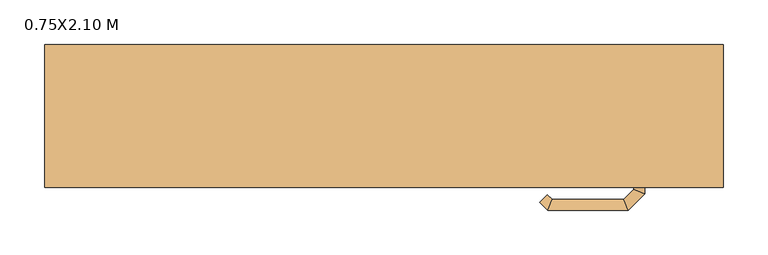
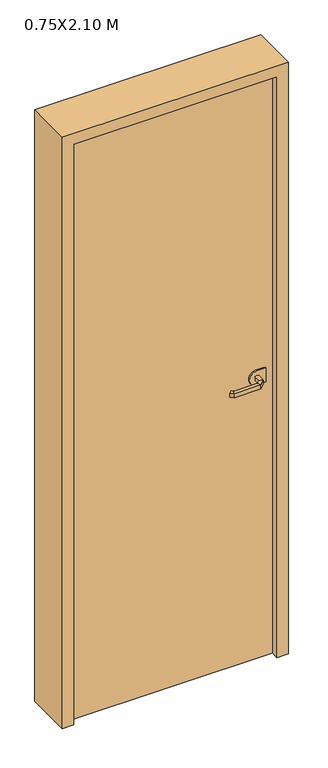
"""IFC4 building model written with IfcOpenShell, lengths in millimetres: door geometry, PUERTA DE  MADERA-CEDRO : 0.75X2.10 M."""

from ifc_helpers import new_model, si_unit, point, frame, frame_2d, origin, origin_with_axes, place, context, project, spatial, polyline, circle_curve, ellipse_curve, trimmed, segment, composite_curve, outline, extrude, faceted_brep, source, transform, mapped, element, save
from ifc_brep_helpers import plane_surface, cylinder_surface, advanced_brep


def door_0_75x2_10_m_664283bd(model_context):
    return source(origin(), model_context, "Body", "SolidModel", [
        extrude(outline(composite_curve([segment(polyline([(975.0, 315.9), (1025.0, 315.9), (1025.0, 285.9)]), True, "CONTINUOUS"), segment(trimmed(circle_curve(frame_2d((1000.0, 285.9)), 25.0), [point((1025.0, 285.9))], [point((975.0, 285.9))], False, "CARTESIAN"), True, "CONTINUOUS"), segment(polyline([(975.0, 285.9), (975.0, 315.9)]), True, "CONTINUOUS")], self_intersect=False)), frame((0.0, -16.5, 0.0), z_axis=(0.0, 1.0, 0.0), x_axis=(0.0, 0.0, 1.0)), (0.0, 0.0, 1.0), 5.0),
        advanced_brep(
        [(279.9, -11.5, 993.0), (291.9, -11.5, 993.0), (291.9, -11.5, 1007.0), (279.9, -11.5, 1007.0), (279.9, 10.9852045, 1007.0), (279.9, 10.9852045, 993.0), (291.9, 15.9557673, 1007.0), (291.9, 15.9557673, 993.0), (268.4147186, 22.4704859, 1007.0), (268.4147186, 22.4704859, 993.0), (273.3852814, 34.4704859, 1007.0), (273.3852814, 34.4704859, 993.0), (188.3394977, 22.4704859, 1007.0), (188.3394977, 22.4704859, 993.0), (183.368935, 34.4704859, 1007.0), (183.368935, 34.4704859, 993.0), (183.0257892, 17.1567774, 993.0), (183.0257892, 17.1567774, 1007.0), (174.5405078, 25.6420588, 1007.0), (174.5405078, 25.6420588, 993.0)],
        [
            (0, 1, circle_curve(frame((285.9, -11.5, 1013.0457722), z_axis=(0.0, -1.0, 0.0), x_axis=(1.0, 0.0, 0.0)), 20.9244589)),
            (1, 2),
            (2, 3, circle_curve(frame((285.9, -11.5, 986.9542278), z_axis=(0.0, -1.0, 0.0), x_axis=(1.0, 0.0, 0.0)), 20.9244589)),
            (3, 0),
            (3, 4),
            (4, 5),
            (5, 0),
            (2, 6),
            (6, 4, ellipse_curve(frame((285.9, 13.4704859, 986.9542278), z_axis=(0.38268343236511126, -0.9238795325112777, 0.0), x_axis=(-0.9238795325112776, -0.3826834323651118, 0.0)), 22.6484711, 20.9244589)),
            (1, 7),
            (7, 6),
            (5, 7, ellipse_curve(frame((285.9, 13.4704859, 1013.0457722), z_axis=(0.38268343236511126, -0.9238795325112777, 0.0), x_axis=(-0.9238795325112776, -0.3826834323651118, 0.0)), 22.6484711, 20.9244589)),
            (4, 8),
            (8, 9),
            (9, 5),
            (6, 10),
            (10, 8, ellipse_curve(frame((270.9, 28.4704859, 986.9542278), z_axis=(0.9238795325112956, -0.3826834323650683, 0.0), x_axis=(-0.38268343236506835, -0.9238795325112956, 0.0)), 22.6484711, 20.9244589)),
            (7, 11),
            (11, 10),
            (9, 11, ellipse_curve(frame((270.9, 28.4704859, 1013.0457722), z_axis=(0.9238795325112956, -0.3826834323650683, 0.0), x_axis=(-0.38268343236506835, -0.9238795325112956, 0.0)), 22.6484711, 20.9244589)),
            (8, 12),
            (12, 13),
            (13, 9),
            (10, 14),
            (14, 12, ellipse_curve(frame((185.8542163, 28.4704859, 986.9542278), z_axis=(0.9238795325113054, 0.3826834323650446, 0.0), x_axis=(0.3826834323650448, -0.9238795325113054, 0.0)), 22.6484711, 20.9244589)),
            (11, 15),
            (15, 14),
            (13, 15, ellipse_curve(frame((185.8542163, 28.4704859, 1013.0457722), z_axis=(0.9238795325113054, 0.3826834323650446, 0.0), x_axis=(0.3826834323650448, -0.9238795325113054, 0.0)), 22.6484711, 20.9244589)),
            (16, 17),
            (17, 18, circle_curve(frame((178.7831485, 21.3994181, 986.9542278), z_axis=(-0.707106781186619, -0.7071067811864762, 0.0), x_axis=(-0.7071067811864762, 0.707106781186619, 0.0)), 20.9244589)),
            (18, 19),
            (19, 16, circle_curve(frame((178.7831485, 21.3994181, 1013.0457722), z_axis=(-0.707106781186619, -0.7071067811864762, 0.0), x_axis=(-0.7071067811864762, 0.707106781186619, 0.0)), 20.9244589)),
            (12, 17),
            (16, 13),
            (14, 18),
            (15, 19),
        ],
        [
            plane_surface(frame((295.1195445, -11.5, 1000.0), z_axis=(0.0, -1.0, 0.0), x_axis=(0.0, 0.0, 1.0))),
            plane_surface(frame((279.9, -11.5, 993.0), z_axis=(-1.0, 0.0, 0.0), x_axis=(0.0, 1.0, 0.0))),
            cylinder_surface(frame((285.9, -11.5, 986.9542278), z_axis=(0.0, -1.0, 0.0), x_axis=(1.0, 0.0, 0.0)), 20.9244589),
            plane_surface(frame((291.9, -11.5, 1007.0), z_axis=(1.0, 0.0, 0.0), x_axis=(0.0, 1.0, 0.0))),
            cylinder_surface(frame((285.9, -11.5, 1013.0457722), z_axis=(0.0, -1.0, 0.0), x_axis=(1.0, 0.0, 0.0)), 20.9244589),
            plane_surface(frame((279.9, 10.9852045, 993.0), z_axis=(-0.7071067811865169, -0.7071067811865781, 0.0), x_axis=(-0.7071067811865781, 0.7071067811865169, 0.0))),
            cylinder_surface(frame((285.9, 13.4704859, 986.9542278), z_axis=(0.7071067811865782, -0.7071067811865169, 0.0), x_axis=(0.7071067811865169, 0.7071067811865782, 0.0)), 20.9244589),
            plane_surface(frame((291.9, 15.9557673, 1007.0), z_axis=(0.7071067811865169, 0.7071067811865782, 0.0), x_axis=(-0.7071067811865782, 0.7071067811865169, 0.0))),
            cylinder_surface(frame((285.9, 13.4704859, 1013.0457722), z_axis=(0.7071067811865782, -0.7071067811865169, 0.0), x_axis=(0.7071067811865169, 0.7071067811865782, 0.0)), 20.9244589),
            plane_surface(frame((268.4147186, 22.4704859, 993.0), z_axis=(0.0, -1.0, 0.0), x_axis=(-1.0, 0.0, 0.0))),
            cylinder_surface(frame((270.9, 28.4704859, 986.9542278), z_axis=(1.0, 0.0, 0.0), x_axis=(0.0, 1.0, 0.0)), 20.9244589),
            plane_surface(frame((273.3852814, 34.4704859, 1007.0), z_axis=(0.0, 1.0, 0.0), x_axis=(-1.0, 0.0, 0.0))),
            cylinder_surface(frame((270.9, 28.4704859, 1013.0457722), z_axis=(1.0, 0.0, 0.0), x_axis=(0.0, 1.0, 0.0)), 20.9244589),
            plane_surface(frame((178.7831485, 21.3994181, 990.7804555), z_axis=(-0.707106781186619, -0.7071067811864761, 0.0), x_axis=(-0.7071067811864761, 0.707106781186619, 0.0))),
            plane_surface(frame((188.3394977, 22.4704859, 993.0), z_axis=(0.7071067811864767, -0.7071067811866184, 0.0), x_axis=(-0.7071067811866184, -0.7071067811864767, 0.0))),
            cylinder_surface(frame((185.8542163, 28.4704859, 986.9542278), z_axis=(0.707106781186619, 0.7071067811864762, 0.0), x_axis=(-0.7071067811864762, 0.707106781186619, 0.0)), 20.9244589),
            plane_surface(frame((183.368935, 34.4704859, 1007.0), z_axis=(-0.7071067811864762, 0.7071067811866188, 0.0), x_axis=(-0.7071067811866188, -0.7071067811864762, 0.0))),
            cylinder_surface(frame((185.8542163, 28.4704859, 1013.0457722), z_axis=(0.707106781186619, 0.7071067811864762, 0.0), x_axis=(-0.7071067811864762, 0.707106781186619, 0.0)), 20.9244589),
        ],
        [
            (0, [[1, 2, 3, 4]]),
            (1, [[5, 6, 7, -4]]),
            (2, [[8, 9, -5, -3]]),
            (3, [[10, 11, -8, -2]]),
            (4, [[-7, 12, -10, -1]]),
            (5, [[13, 14, 15, -6]]),
            (6, [[16, 17, -13, -9]]),
            (7, [[18, 19, -16, -11]]),
            (8, [[-15, 20, -18, -12]]),
            (9, [[21, 22, 23, -14]]),
            (10, [[24, 25, -21, -17]]),
            (11, [[26, 27, -24, -19]]),
            (12, [[-23, 28, -26, -20]]),
            (13, [[29, 30, 31, 32]]),
            (14, [[33, -29, 34, -22]]),
            (15, [[35, -30, -33, -25]]),
            (16, [[36, -31, -35, -27]]),
            (17, [[-34, -32, -36, -28]]),
        ],
    ),
        advanced_brep(
        [(291.9, -59.6, 1007.0), (291.9, -59.6, 993.0), (279.9, -59.6, 993.0), (279.9, -59.6, 1007.0), (279.9, -82.280388, 1007.0), (291.9, -87.2509507, 1007.0), (279.9, -82.280388, 993.0), (291.9, -87.2509507, 993.0), (268.5522273, -93.6281607, 1007.0), (273.52279, -105.6281607, 1007.0), (268.5522273, -93.6281607, 993.0), (273.52279, -105.6281607, 993.0), (188.3666408, -93.6281607, 1007.0), (183.396078, -105.6281607, 1007.0), (188.3666408, -93.6281607, 993.0), (183.396078, -105.6281607, 993.0), (174.5676509, -96.7997336, 1007.0), (183.0529323, -88.3144522, 1007.0), (183.0529323, -88.3144522, 993.0), (174.5676509, -96.7997336, 993.0)],
        [
            (0, 1),
            (1, 2, circle_curve(frame((285.9, -59.6, 1013.0457722), z_axis=(0.0, 1.0, 0.0), x_axis=(-1.0, 0.0, 0.0)), 20.9244589)),
            (2, 3),
            (3, 0, circle_curve(frame((285.9, -59.6, 986.9542278), z_axis=(0.0, 1.0, 0.0), x_axis=(-1.0, 0.0, 0.0)), 20.9244589)),
            (3, 4),
            (4, 5, ellipse_curve(frame((285.9, -84.7656693, 986.9542278), z_axis=(0.3826834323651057, 0.9238795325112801, 0.0), x_axis=(-0.9238795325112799, 0.38268343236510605, 0.0)), 22.6484711, 20.9244589)),
            (5, 0),
            (2, 6),
            (6, 4),
            (1, 7),
            (7, 6, ellipse_curve(frame((285.9, -84.7656693, 1013.0457722), z_axis=(0.3826834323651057, 0.9238795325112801, 0.0), x_axis=(-0.9238795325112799, 0.38268343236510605, 0.0)), 22.6484711, 20.9244589)),
            (5, 7),
            (4, 8),
            (8, 9, ellipse_curve(frame((271.0375086, -99.6281607, 986.9542278), z_axis=(0.9238795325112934, 0.3826834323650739, 0.0), x_axis=(-0.3826834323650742, 0.9238795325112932, 0.0)), 22.6484711, 20.9244589)),
            (9, 5),
            (6, 10),
            (10, 8),
            (7, 11),
            (11, 10, ellipse_curve(frame((271.0375086, -99.6281607, 1013.0457722), z_axis=(0.9238795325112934, 0.3826834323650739, 0.0), x_axis=(-0.3826834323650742, 0.9238795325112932, 0.0)), 22.6484711, 20.9244589)),
            (9, 11),
            (8, 12),
            (12, 13, ellipse_curve(frame((185.8813594, -99.6281607, 986.9542278), z_axis=(0.9238795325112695, -0.3826834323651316, 0.0), x_axis=(0.38268343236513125, 0.9238795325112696, 0.0)), 22.6484711, 20.9244589)),
            (13, 9),
            (10, 14),
            (14, 12),
            (11, 15),
            (15, 14, ellipse_curve(frame((185.8813594, -99.6281607, 1013.0457722), z_axis=(0.9238795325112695, -0.3826834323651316, 0.0), x_axis=(0.38268343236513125, 0.9238795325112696, 0.0)), 22.6484711, 20.9244589)),
            (13, 15),
            (16, 17, circle_curve(frame((178.8102916, -92.5570929, 986.9542278), z_axis=(-0.7071067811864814, 0.7071067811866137, 0.0), x_axis=(0.7071067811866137, 0.7071067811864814, 0.0)), 20.9244589)),
            (17, 18),
            (18, 19, circle_curve(frame((178.8102916, -92.5570929, 1013.0457722), z_axis=(-0.7071067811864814, 0.7071067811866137, 0.0), x_axis=(0.7071067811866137, 0.7071067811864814, 0.0)), 20.9244589)),
            (19, 16),
            (12, 17),
            (16, 13),
            (14, 18),
            (15, 19),
        ],
        [
            plane_surface(frame((295.1195445, -59.6, 1000.0), z_axis=(0.0, 1.0, 0.0), x_axis=(0.0, 0.0, -1.0))),
            cylinder_surface(frame((285.9, -59.6, 986.9542278), z_axis=(0.0, 1.0, 0.0), x_axis=(-1.0, 0.0, 0.0)), 20.9244589),
            plane_surface(frame((279.9, -59.6, 1007.0), z_axis=(-1.0, 0.0, 0.0), x_axis=(0.0, -1.0, 0.0))),
            cylinder_surface(frame((285.9, -59.6, 1013.0457722), z_axis=(0.0, 1.0, 0.0), x_axis=(-1.0, 0.0, 0.0)), 20.9244589),
            plane_surface(frame((291.9, -59.6, 993.0), z_axis=(1.0, 0.0, 0.0), x_axis=(0.0, -1.0, 0.0))),
            cylinder_surface(frame((285.9, -84.7656693, 986.9542278), z_axis=(0.7071067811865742, 0.7071067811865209, 0.0), x_axis=(-0.7071067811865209, 0.7071067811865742, 0.0)), 20.9244589),
            plane_surface(frame((279.9, -82.280388, 1007.0), z_axis=(-0.7071067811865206, 0.7071067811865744, 0.0), x_axis=(-0.7071067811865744, -0.7071067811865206, 0.0))),
            cylinder_surface(frame((285.9, -84.7656693, 1013.0457722), z_axis=(0.7071067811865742, 0.7071067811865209, 0.0), x_axis=(-0.7071067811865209, 0.7071067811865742, 0.0)), 20.9244589),
            plane_surface(frame((291.9, -87.2509507, 993.0), z_axis=(0.707106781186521, -0.7071067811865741, 0.0), x_axis=(-0.7071067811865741, -0.707106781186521, 0.0))),
            cylinder_surface(frame((271.0375086, -99.6281607, 986.9542278), z_axis=(1.0, 0.0, 0.0), x_axis=(0.0, 1.0, 0.0)), 20.9244589),
            plane_surface(frame((268.5522273, -93.6281607, 1007.0), z_axis=(0.0, 1.0, 0.0), x_axis=(-1.0, 0.0, 0.0))),
            cylinder_surface(frame((271.0375086, -99.6281607, 1013.0457722), z_axis=(1.0, 0.0, 0.0), x_axis=(0.0, 1.0, 0.0)), 20.9244589),
            plane_surface(frame((273.52279, -105.6281607, 993.0), z_axis=(0.0, -1.0, 0.0), x_axis=(-1.0, 0.0, 0.0))),
            plane_surface(frame((178.8102916, -92.5570929, 1009.2195445), z_axis=(-0.7071067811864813, 0.7071067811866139, 0.0), x_axis=(-0.7071067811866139, -0.7071067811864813, 0.0))),
            cylinder_surface(frame((185.8813594, -99.6281607, 986.9542278), z_axis=(0.7071067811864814, -0.7071067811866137, 0.0), x_axis=(0.7071067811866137, 0.7071067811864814, 0.0)), 20.9244589),
            plane_surface(frame((188.3666408, -93.6281607, 1007.0), z_axis=(0.7071067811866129, 0.7071067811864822, 0.0), x_axis=(-0.7071067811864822, 0.7071067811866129, 0.0))),
            cylinder_surface(frame((185.8813594, -99.6281607, 1013.0457722), z_axis=(0.7071067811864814, -0.7071067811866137, 0.0), x_axis=(0.7071067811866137, 0.7071067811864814, 0.0)), 20.9244589),
            plane_surface(frame((183.396078, -105.6281607, 993.0), z_axis=(-0.7071067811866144, -0.7071067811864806, 0.0), x_axis=(-0.7071067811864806, 0.7071067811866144, 0.0))),
        ],
        [
            (0, [[1, 2, 3, 4]]),
            (1, [[5, 6, 7, -4]]),
            (2, [[8, 9, -5, -3]]),
            (3, [[10, 11, -8, -2]]),
            (4, [[-7, 12, -10, -1]]),
            (5, [[13, 14, 15, -6]]),
            (6, [[16, 17, -13, -9]]),
            (7, [[18, 19, -16, -11]]),
            (8, [[-15, 20, -18, -12]]),
            (9, [[21, 22, 23, -14]]),
            (10, [[24, 25, -21, -17]]),
            (11, [[26, 27, -24, -19]]),
            (12, [[-23, 28, -26, -20]]),
            (13, [[29, 30, 31, 32]]),
            (14, [[33, -29, 34, -22]]),
            (15, [[35, -30, -33, -25]]),
            (16, [[36, -31, -35, -27]]),
            (17, [[-34, -32, -36, -28]]),
        ],
    ),
        extrude(outline(composite_curve([segment(polyline([(975.0, 315.9), (1025.0, 315.9), (1025.0, 285.9)]), True, "CONTINUOUS"), segment(trimmed(circle_curve(frame_2d((1000.0, 285.9)), 25.0), [point((1025.0, 285.9))], [point((975.0, 285.9))], False, "CARTESIAN"), True, "CONTINUOUS"), segment(polyline([(975.0, 285.9), (975.0, 315.9)]), True, "CONTINUOUS")], self_intersect=False)), frame((0.0, -59.6, 0.0), z_axis=(0.0, 1.0, 0.0), x_axis=(0.0, 0.0, 1.0)), (0.0, 0.0, 1.0), 5.0),
        faceted_brep([(-380.0, 80.0, 0.0), (-354.6, 80.0, 0.0), (-354.6, -54.6, 0.0), (-341.9, -54.6, 0.0), (-341.9, -80.0, 0.0), (-380.0, -80.0, 0.0), (-380.0, -80.0, 2100.0), (-380.0, 80.0, 2100.0), (-341.9, -80.0, 2061.9), (341.9, -80.0, 2061.9), (341.9, -80.0, 0.0), (380.0, -80.0, 0.0), (380.0, -80.0, 2100.0), (-341.9, -54.6, 2061.9), (-354.6, -54.6, 2074.6), (354.6, -54.6, 2074.6), (354.6, -54.6, 0.0), (341.9, -54.6, 0.0), (341.9, -54.6, 2061.9), (-354.6, 80.0, 2074.6), (380.0, 80.0, 2100.0), (380.0, 80.0, 0.0), (354.6, 80.0, 0.0), (354.6, 80.0, 2074.6)], [[[0, 1, 2, 3, 4, 5]], [[5, 6, 7, 0]], [[4, 8, 9, 10, 11, 12, 6, 5]], [[3, 13, 8, 4]], [[2, 14, 15, 16, 17, 18, 13, 3]], [[1, 19, 14, 2]], [[0, 7, 20, 21, 22, 23, 19, 1]], [[12, 11, 21, 20]], [[21, 11, 10, 17, 16, 22]], [[18, 17, 10, 9]], [[23, 22, 16, 15]], [[6, 12, 20, 7]], [[13, 18, 9, 8]], [[19, 23, 15, 14]]]),
        extrude(outline(polyline([(-354.6, -54.6), (-354.6, -16.5), (354.6, -16.5), (354.6, -54.6), (-354.6, -54.6)])), origin_with_axes(), (0.0, 0.0, 1.0), 2074.6),
    ])


if __name__ == "__main__":
    model = new_model("IFC4")
    model_context = context("Model", 3, world=origin())
    ifc_project = project(units=[si_unit("LENGTHUNIT", "METRE", prefix="MILLI")], contexts=[model_context])
    site = spatial("IfcSite", under=ifc_project)
    building = spatial("IfcBuilding", under=site)
    placement = place(None, origin())
    door_0_75x2_10_m_shape = door_0_75x2_10_m_664283bd(model_context)
    element("IfcDoor", 1, ObjectType="PUERTA DE  MADERA-CEDRO : 0.75X2.10 M", at=placement, inside=building, context=model_context, shape_type="MappedRepresentation", body=[
        mapped(door_0_75x2_10_m_shape, transform((0.0, 0.0, 0.0), x_axis=(1.0, 0.0, 0.0), y_axis=(0.0, 1.0, 0.0), z_axis=(0.0, 0.0, 1.0))),
    ])
    save(model, "model.ifc")
